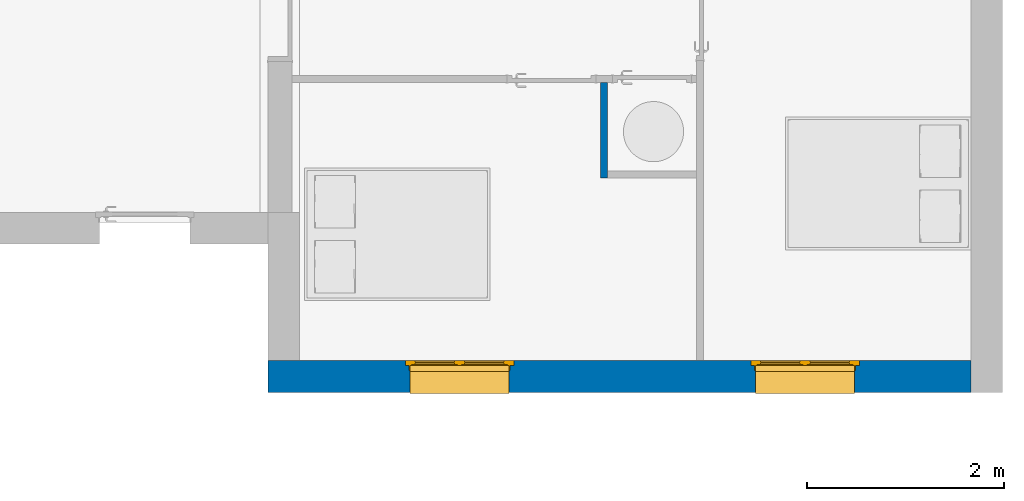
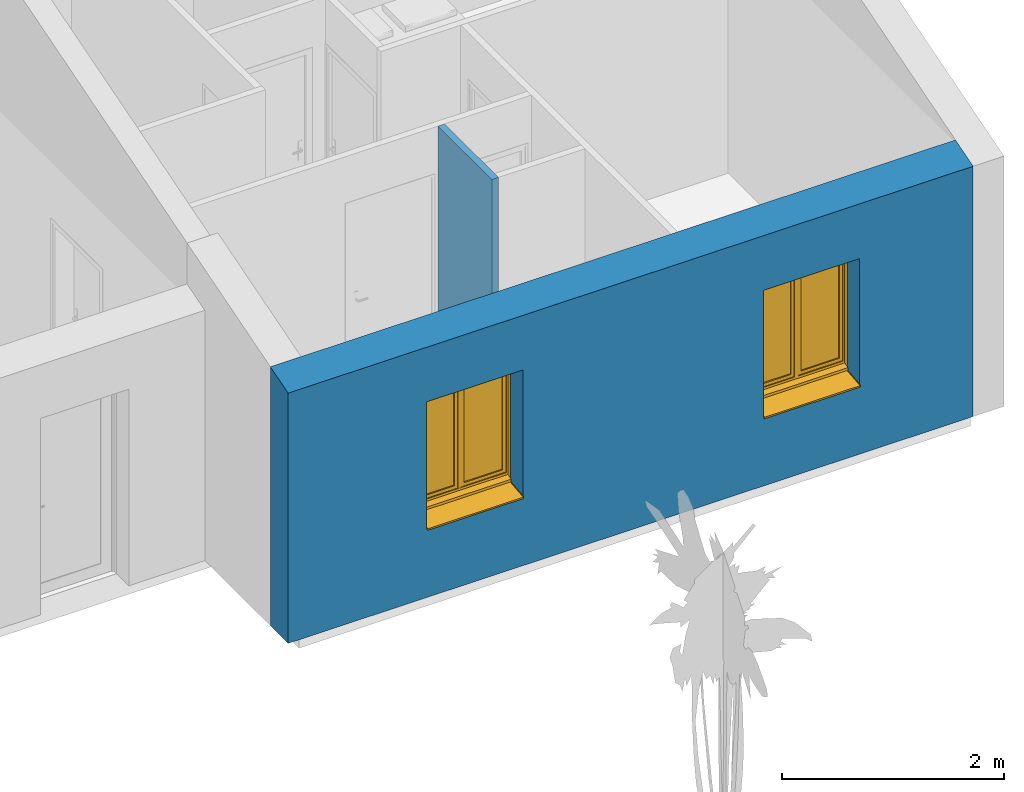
# One storey, part 2 of 18: 2 walls, 2 windows, 2 openings.
"""IFC2X3 building model written with IfcOpenShell, lengths in metres."""

from ifc_helpers import new_model, entity, si_unit, converted_unit, derived_unit, direction, frame, frame_2d, origin, place, context, subcontext, project, spatial, polyline, rectangle, extrude, clip, bounded_halfspace, faceted_brep, source, transform, mapped, material, material_list, layer, layer_set, layer_usage, type_object, type_shapes, element, fill, save


model = new_model("IFC2X3")

# Units and contexts
model_context = context("Model", 3, precision=1e-05, world=origin(), true_north=direction((6.12303176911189e-17, 1.0)))
body_context = subcontext(model_context, "Body", "Model", "MODEL_VIEW")
ifc_project = project(units=[si_unit("LENGTHUNIT", "METRE"), si_unit("AREAUNIT", "SQUARE_METRE"), si_unit("VOLUMEUNIT", "CUBIC_METRE"), converted_unit("PLANEANGLEUNIT", "DEGREE", entity("IfcRatioMeasure", 0.0174532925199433), si_unit("PLANEANGLEUNIT", "RADIAN"), dimensions=[0, 0, 0, 0, 0, 0, 0]), si_unit("MASSUNIT", "GRAM", prefix="KILO"), derived_unit("MASSDENSITYUNIT", [(si_unit("MASSUNIT", "GRAM", prefix="KILO"), 1), (si_unit("LENGTHUNIT", "METRE"), -3)]), derived_unit("MOMENTOFINERTIAUNIT", [(si_unit("LENGTHUNIT", "METRE"), 4)]), si_unit("TIMEUNIT", "SECOND"), si_unit("FREQUENCYUNIT", "HERTZ"), si_unit("THERMODYNAMICTEMPERATUREUNIT", "DEGREE_CELSIUS"), derived_unit("THERMALTRANSMITTANCEUNIT", [(si_unit("MASSUNIT", "GRAM", prefix="KILO"), 1), (si_unit("THERMODYNAMICTEMPERATUREUNIT", "KELVIN"), -1), (si_unit("TIMEUNIT", "SECOND"), -3)]), derived_unit("VOLUMETRICFLOWRATEUNIT", [(si_unit("LENGTHUNIT", "METRE"), 3), (si_unit("TIMEUNIT", "SECOND"), -1)]), si_unit("ELECTRICCURRENTUNIT", "AMPERE"), si_unit("ELECTRICVOLTAGEUNIT", "VOLT"), si_unit("POWERUNIT", "WATT"), si_unit("FORCEUNIT", "NEWTON", prefix="KILO"), si_unit("ILLUMINANCEUNIT", "LUX"), si_unit("LUMINOUSFLUXUNIT", "LUMEN"), si_unit("LUMINOUSINTENSITYUNIT", "CANDELA"), derived_unit("USERDEFINED", [(si_unit("MASSUNIT", "GRAM", prefix="KILO"), -1), (si_unit("LENGTHUNIT", "METRE"), -2), (si_unit("TIMEUNIT", "SECOND"), 3), (si_unit("LUMINOUSFLUXUNIT", "LUMEN"), 1)]), derived_unit("LINEARVELOCITYUNIT", [(si_unit("LENGTHUNIT", "METRE"), 1), (si_unit("TIMEUNIT", "SECOND"), -1)]), si_unit("PRESSUREUNIT", "PASCAL"), derived_unit("USERDEFINED", [(si_unit("LENGTHUNIT", "METRE"), -2), (si_unit("MASSUNIT", "GRAM", prefix="KILO"), 1), (si_unit("TIMEUNIT", "SECOND"), -2)]), derived_unit("LINEARFORCEUNIT", [(si_unit("MASSUNIT", "GRAM", prefix="KILO"), 1), (si_unit("LENGTHUNIT", "METRE"), 1), (si_unit("TIMEUNIT", "SECOND"), -2), (si_unit("LENGTHUNIT", "METRE"), -1)]), derived_unit("PLANARFORCEUNIT", [(si_unit("MASSUNIT", "GRAM", prefix="KILO"), 1), (si_unit("LENGTHUNIT", "METRE"), 1), (si_unit("TIMEUNIT", "SECOND"), -2), (si_unit("LENGTHUNIT", "METRE"), -2)])], contexts=[model_context])

# Site, building, storey
site_placement = place(None, origin())
site = spatial("IfcSite", under=ifc_project, at=site_placement, Name="Surface", CompositionType="ELEMENT")
building_placement = place(site_placement, origin())
building = spatial("IfcBuilding", under=site, at=building_placement, CompositionType="ELEMENT")
storey_placement = place(building_placement, origin())
storey = spatial("IfcBuildingStorey", under=building, at=storey_placement, Name="RDC", CompositionType="ELEMENT", Elevation=-1.94916083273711e-14)

# Wall, openings, windows
ifc_material_1 = material(Name="Maçonnerie - Enduit")
ifc_layer_1 = layer(ifc_material_1, 0.02)
ifc_material_2 = material(Name="Blocs béton manufacturés")
ifc_layer_2 = layer(ifc_material_2, 0.2)
ifc_material_3 = material(Name="Maçonnerie - Isolant")
ifc_layer_3 = layer(ifc_material_3, 0.1)
ifc_layer_set_1 = layer_set([ifc_layer_1, ifc_layer_2, ifc_layer_3], Name="Mur de base:Ext. Parpaing 20 + Isolant 10")
ifc_layer_usage_1 = layer_usage(ifc_layer_set_1, "AXIS2", "NEGATIVE", 0.16)
wall_type_1 = type_object("IfcWallType", Name="Mur de base:Ext. Parpaing 20 + Isolant 10", PredefinedType="STANDARD", material=ifc_layer_set_1)
wall_1_placement = place(storey_placement, frame((-4.22829269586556, -0.952620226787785, 0.0), z_axis=(0.0, 0.0, 1.0), x_axis=(-1.0, 0.0, 0.0)))
wall_1 = element("IfcWallStandardCase", 1, at=wall_1_placement, inside=storey, type_object=wall_type_1, material=ifc_layer_usage_1, Name="Mur de base:Ext. Parpaing 20 + Isolant 10", ObjectType="Mur de base:Ext. Parpaing 20 + Isolant 10", context=body_context, shape_type="Clipping", body=[
    clip(extrude(rectangle(XDim=7.12000000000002, YDim=0.32, at=frame_2d((3.56000000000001, 0.0), x_axis=(-1.0, 0.0))), origin(), (0.0, 0.0, 1.0), 2.84600000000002), bounded_halfspace(frame((0.0, -0.16, 2.84600000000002), z_axis=(0.0, 0.287347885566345, 0.957826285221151), x_axis=(-1.0, 0.0, 0.0)), False, frame((0.0, -0.16, 2.84600000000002)), polyline([(0.0, 0.0), (6.80000000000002, 0.0), (7.12000000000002, 0.0), (7.12000000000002, 0.32), (0.0, 0.32), (0.0, 0.0)]))),
])
opening_1_placement = place(wall_1_placement, frame((2.23, 0.499999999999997, 0.724039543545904), z_axis=(0.0, 0.0, 1.0), x_axis=(-1.0, 0.0, 0.0)))
opening_1 = element("IfcOpeningElement", 2, at=opening_1_placement, cuts=wall_1, Name="Mur de base:Ext. Parpaing 20 + Isolant 10", ObjectType="Opening", context=body_context, shape_type="Brep", body=[
    faceted_brep([(1.05, 0.580000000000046, 0.0759604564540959), (1.05, 0.559999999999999, 0.0759604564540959), (1.05, 0.559999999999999, 1.4259604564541), (1.05, 0.0, 1.4259604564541), (1.05, 0.0, 0.0), (1.05, 0.580000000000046, 0.0609604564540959), (0.0500000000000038, 1.0, 0.0759604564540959), (0.0500000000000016, 0.660000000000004, 0.0759604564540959), (0.0500000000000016, 0.660000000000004, 1.42596045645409), (0.0500000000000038, 1.0, 1.4259604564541), (1.05, 1.0, 0.0759604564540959), (1.05, 0.660000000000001, 0.0759604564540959), (1.1, 0.660000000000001, 0.0759604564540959), (1.1, 0.610000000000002, 0.0759604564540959), (1.06, 0.610000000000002, 0.0759604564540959), (1.06, 0.559999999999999, 0.0759604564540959), (0.0500000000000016, 0.580000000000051, 0.0759604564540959), (0.0500000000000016, 0.560000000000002, 0.0759604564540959), (0.0400000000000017, 0.560000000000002, 0.0759604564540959), (0.0400000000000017, 0.610000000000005, 0.0759604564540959), (0.0, 0.610000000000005, 0.0759604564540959), (0.0, 0.660000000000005, 0.0759604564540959), (1.05, 1.0, 1.4259604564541), (0.0500000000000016, 0.560000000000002, 1.4259604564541), (0.0500000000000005, 0.0, 1.4259604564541), (0.0500000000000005, 0.0, 0.0), (0.0500000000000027, 0.580000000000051, 0.0609604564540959), (1.1, 0.660000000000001, 1.47596045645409), (1.1, 0.610000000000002, 1.47596045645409), (0.0, 0.610000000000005, 1.47596045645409), (0.0400000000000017, 0.610000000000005, 1.4359604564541), (1.06, 0.610000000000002, 1.4359604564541), (1.06, 0.559999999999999, 1.4359604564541), (0.0400000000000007, 0.560000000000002, 1.4359604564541), (1.05, 0.660000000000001, 1.4259604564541), (0.0, 0.660000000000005, 1.47596045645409)], [[[0, 1, 2, 3, 4, 5]], [[6, 7, 8, 9]], [[10, 11, 12, 13, 14, 15, 1, 0, 16, 17, 18, 19, 20, 21, 7, 6]], [[10, 6, 9, 22]], [[3, 2, 23, 24]], [[3, 24, 25, 4]], [[4, 25, 26, 5]], [[5, 26, 16, 0]], [[12, 27, 28, 13]], [[13, 28, 29, 20, 19, 30, 31, 14]], [[14, 31, 32, 15]], [[15, 32, 33, 18, 17, 23, 2, 1]], [[11, 34, 8, 7, 21, 35, 27, 12]], [[27, 35, 29, 28]], [[30, 33, 32, 31]], [[29, 35, 21, 20]], [[19, 18, 33, 30]], [[9, 8, 34, 22]], [[24, 23, 17, 16, 26, 25]], [[22, 34, 11, 10]]]),
])
opening_2_placement = place(wall_1_placement, frame((5.73, 0.499999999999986, 0.724039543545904), z_axis=(0.0, 0.0, 1.0), x_axis=(-1.0, 0.0, 0.0)))
opening_2 = element("IfcOpeningElement", 3, at=opening_2_placement, cuts=wall_1, Name="Mur de base:Ext. Parpaing 20 + Isolant 10", ObjectType="Opening", context=body_context, shape_type="Brep", body=[
    faceted_brep([(1.05, 0.580000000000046, 0.0759604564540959), (1.05, 0.559999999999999, 0.0759604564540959), (1.05, 0.559999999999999, 1.4259604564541), (1.05, 0.0, 1.4259604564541), (1.05, 0.0, 0.0), (1.05, 0.580000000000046, 0.0609604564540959), (0.0500000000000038, 1.0, 0.0759604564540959), (0.0500000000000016, 0.660000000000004, 0.0759604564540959), (0.0500000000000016, 0.660000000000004, 1.42596045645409), (0.0500000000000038, 1.0, 1.4259604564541), (1.05, 1.0, 0.0759604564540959), (1.05, 0.660000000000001, 0.0759604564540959), (1.1, 0.660000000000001, 0.0759604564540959), (1.1, 0.610000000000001, 0.0759604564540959), (1.06, 0.610000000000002, 0.0759604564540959), (1.06, 0.559999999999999, 0.0759604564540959), (0.0500000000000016, 0.580000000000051, 0.0759604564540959), (0.0499999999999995, 0.560000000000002, 0.0759604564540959), (0.0399999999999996, 0.560000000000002, 0.0759604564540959), (0.0400000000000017, 0.610000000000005, 0.0759604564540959), (0.0, 0.610000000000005, 0.0759604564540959), (0.0, 0.660000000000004, 0.0759604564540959), (1.05, 1.0, 1.4259604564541), (0.0500000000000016, 0.560000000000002, 1.4259604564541), (0.0499999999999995, 0.0, 1.4259604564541), (0.0499999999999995, 0.0, 0.0), (0.0500000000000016, 0.580000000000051, 0.0609604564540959), (1.1, 0.660000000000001, 1.47596045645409), (1.1, 0.610000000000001, 1.47596045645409), (0.0, 0.610000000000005, 1.47596045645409), (0.0400000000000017, 0.610000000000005, 1.4359604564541), (1.06, 0.610000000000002, 1.4359604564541), (1.06, 0.559999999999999, 1.4359604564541), (0.0399999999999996, 0.560000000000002, 1.4359604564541), (1.05, 0.660000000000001, 1.4259604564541), (0.0, 0.660000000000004, 1.47596045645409)], [[[0, 1, 2, 3, 4, 5]], [[6, 7, 8, 9]], [[10, 11, 12, 13, 14, 15, 1, 0, 16, 17, 18, 19, 20, 21, 7, 6]], [[10, 6, 9, 22]], [[3, 2, 23, 24]], [[3, 24, 25, 4]], [[4, 25, 26, 5]], [[5, 26, 16, 0]], [[12, 27, 28, 13]], [[13, 28, 29, 20, 19, 30, 31, 14]], [[14, 31, 32, 15]], [[15, 32, 33, 18, 17, 23, 2, 1]], [[11, 34, 8, 7, 21, 35, 27, 12]], [[27, 35, 29, 28]], [[30, 33, 32, 31]], [[29, 35, 21, 20]], [[19, 18, 33, 30]], [[9, 8, 34, 22]], [[24, 23, 17, 16, 26, 25]], [[22, 34, 11, 10]]]),
])
ifc_material_4 = material(Name="Fenêtre - Poignée")
ifc_material_5 = material(Name="Fenêtre - Appui")
ifc_material_6 = material(Name="Fenêtre - Cadre")
ifc_material_7 = material(Name="Fenêtre - Vitrage")
ifc_material_list_1 = material_list([ifc_material_4, ifc_material_5, ifc_material_6, ifc_material_7])
ifc_material_list_2 = material_list([ifc_material_7, ifc_material_6, ifc_material_6, ifc_material_5, ifc_material_4])
window_style = type_object("IfcWindowStyle", Name="2 Vantaux - Droits:1m x 1.35m - Appui Alu", ConstructionType="NOTDEFINED", OperationType="DOUBLE_PANEL_VERTICAL", ParameterTakesPrecedence=False, Sizeable=False, material=ifc_material_list_2)
shared_shape = source(origin(), body_context, "Body", "Brep", [
    faceted_brep([(0.580646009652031, -0.66600000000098, 0.697994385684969), (0.582033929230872, -0.66600000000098, 0.696606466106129), (0.582033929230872, -0.66600000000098, 0.685292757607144), (0.580667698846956, -0.66600000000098, 0.683926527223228), (0.569332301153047, -0.66600000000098, 0.683926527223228), (0.567966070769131, -0.66600000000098, 0.685292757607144), (0.567966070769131, -0.66600000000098, 0.696606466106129), (0.569353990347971, -0.66600000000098, 0.697994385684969), (0.580646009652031, -0.678913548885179, 0.697994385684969), (0.582033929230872, -0.67833865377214, 0.696606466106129), (0.582033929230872, -0.69164600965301, 0.683299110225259), (0.582033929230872, -0.69164600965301, 0.595960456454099), (0.582033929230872, -0.680332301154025, 0.595960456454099), (0.582033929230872, -0.680332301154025, 0.678612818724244), (0.582033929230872, -0.673652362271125, 0.685292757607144), (0.580667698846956, -0.673086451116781, 0.683926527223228), (0.569332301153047, -0.673086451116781, 0.683926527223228), (0.567966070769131, -0.673652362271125, 0.685292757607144), (0.567966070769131, -0.680332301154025, 0.678612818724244), (0.567966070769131, -0.680332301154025, 0.595960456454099), (0.567966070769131, -0.69164600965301, 0.595960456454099), (0.567966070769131, -0.69164600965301, 0.683299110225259), (0.567966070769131, -0.67833865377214, 0.696606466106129), (0.569353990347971, -0.678913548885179, 0.697994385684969), (0.580646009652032, -0.69303392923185, 0.683874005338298), (0.580667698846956, -0.67896607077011, 0.6780469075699), (0.569332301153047, -0.67896607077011, 0.6780469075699), (0.569353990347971, -0.69303392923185, 0.683874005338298), (0.580646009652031, -0.69303392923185, 0.595960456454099), (0.569353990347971, -0.69303392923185, 0.595960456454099), (0.569332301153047, -0.678966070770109, 0.595960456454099), (0.580667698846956, -0.678966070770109, 0.595960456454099)], [[[0, 1, 2, 3, 4, 5, 6, 7]], [[1, 0, 8, 9]], [[2, 1, 9, 10, 11, 12, 13, 14]], [[3, 2, 14, 15]], [[4, 3, 15, 16]], [[5, 4, 16, 17]], [[6, 5, 17, 18, 19, 20, 21, 22]], [[7, 6, 22, 23]], [[0, 7, 23, 8]], [[9, 8, 24, 10]], [[15, 14, 13, 25]], [[16, 15, 25, 26]], [[17, 16, 26, 18]], [[23, 22, 21, 27]], [[8, 23, 27, 24]], [[28, 29, 20, 19, 30, 31, 12, 11]], [[10, 24, 28, 11]], [[25, 13, 12, 31]], [[26, 25, 31, 30]], [[18, 26, 30, 19]], [[27, 21, 20, 29]], [[24, 27, 29, 28]]]),
    faceted_brep([(0.582000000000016, -0.666000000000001, 0.715960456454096), (0.568, -0.666000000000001, 0.715960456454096), (0.563, -0.666000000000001, 0.710960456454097), (0.563, -0.666000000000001, 0.640960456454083), (0.567999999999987, -0.666000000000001, 0.635960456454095), (0.582000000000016, -0.666000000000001, 0.635960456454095), (0.587000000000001, -0.666000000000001, 0.640960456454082), (0.587000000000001, -0.666000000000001, 0.710960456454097), (0.582000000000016, -0.660000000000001, 0.715960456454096), (0.587000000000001, -0.660000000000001, 0.710960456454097), (0.587000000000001, -0.660000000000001, 0.640960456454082), (0.582000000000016, -0.660000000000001, 0.635960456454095), (0.567999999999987, -0.660000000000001, 0.635960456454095), (0.563, -0.660000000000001, 0.640960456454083), (0.563, -0.660000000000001, 0.710960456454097), (0.568, -0.660000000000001, 0.715960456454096)], [[[0, 1, 2, 3, 4, 5, 6, 7]], [[8, 9, 10, 11, 12, 13, 14, 15]], [[1, 0, 8, 15]], [[2, 1, 15, 14]], [[3, 2, 14, 13]], [[4, 3, 13, 12]], [[5, 4, 12, 11]], [[6, 5, 11, 10]], [[7, 6, 10, 9]], [[0, 7, 9, 8]]]),
    faceted_brep([(1.05, -0.324999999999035, 0.0394140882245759), (1.05, -0.574999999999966, 0.0656901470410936), (1.05, -0.574999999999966, 0.075960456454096), (1.05, -0.579999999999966, 0.075960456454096), (1.05, -0.579999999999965, 0.0609604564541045), (1.05, -0.329999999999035, 0.0346843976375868), (1.05, -0.329999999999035, 0.0243838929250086), (1.05, -0.324999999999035, 0.0238583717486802), (0.0499999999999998, -0.324999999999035, 0.0394140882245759), (0.0499999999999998, -0.324999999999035, 0.0238583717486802), (0.0499999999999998, -0.329999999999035, 0.0243838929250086), (0.0499999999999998, -0.329999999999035, 0.0346843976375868), (0.0499999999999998, -0.579999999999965, 0.0609604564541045), (0.0499999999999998, -0.579999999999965, 0.075960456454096), (0.0499999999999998, -0.574999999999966, 0.075960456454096), (0.0499999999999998, -0.574999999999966, 0.0656901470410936)], [[[0, 1, 2, 3, 4, 5, 6, 7]], [[8, 9, 10, 11, 12, 13, 14, 15]], [[1, 0, 8, 15]], [[2, 1, 15, 14]], [[3, 2, 14, 13]], [[4, 3, 13, 12]], [[5, 4, 12, 11]], [[6, 5, 11, 10]], [[7, 6, 10, 9]], [[0, 7, 9, 8]]]),
    faceted_brep([(0.0500000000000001, -0.324999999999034, 0.0408400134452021), (0.0500000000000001, -0.324999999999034, 0.0394140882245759), (0.0499999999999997, -0.574999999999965, 0.0656901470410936), (0.0499999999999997, -0.574999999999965, 0.0707176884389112), (0.0500000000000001, -0.328581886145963, 0.0448181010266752), (0.0500000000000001, -0.326027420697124, 0.0435165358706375), (0.0549999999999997, -0.574999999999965, 0.0707176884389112), (0.0549999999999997, -0.574999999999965, 0.0656901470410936), (0.0550000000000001, -0.324999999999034, 0.0394140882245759), (0.0550000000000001, -0.324999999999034, 0.0408400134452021), (0.0550000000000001, -0.326027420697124, 0.0435165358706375), (0.0550000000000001, -0.328581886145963, 0.0448181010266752)], [[[0, 1, 2, 3, 4, 5]], [[6, 7, 8, 9, 10, 11]], [[2, 1, 8, 7]], [[3, 2, 7, 6]], [[4, 3, 6, 11]], [[4, 11, 10, 5]], [[10, 9, 0, 5]], [[1, 0, 9, 8]]]),
    faceted_brep([(1.045, -0.324999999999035, 0.0408400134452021), (1.045, -0.324999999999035, 0.0394140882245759), (1.045, -0.574999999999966, 0.0656901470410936), (1.045, -0.574999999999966, 0.0707176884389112), (1.045, -0.328581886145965, 0.0448181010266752), (1.045, -0.326027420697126, 0.0435165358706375), (1.05, -0.574999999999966, 0.0707176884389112), (1.05, -0.574999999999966, 0.0656901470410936), (1.05, -0.324999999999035, 0.0394140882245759), (1.05, -0.324999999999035, 0.0408400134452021), (1.05, -0.326027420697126, 0.0435165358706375), (1.05, -0.328581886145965, 0.0448181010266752)], [[[0, 1, 2, 3, 4, 5]], [[6, 7, 8, 9, 10, 11]], [[2, 1, 8, 7]], [[3, 2, 7, 6]], [[4, 3, 6, 11]], [[4, 11, 10, 5]], [[10, 9, 0, 5]], [[1, 0, 9, 8]]]),
    faceted_brep([(0.549999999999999, -0.619999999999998, 1.4259604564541), (0.549999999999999, -0.65999999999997, 1.4259604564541), (0.549999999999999, -0.65999999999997, 0.125960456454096), (0.549999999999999, -0.619999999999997, 0.125960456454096), (0.0499999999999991, -0.659999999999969, 0.125960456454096), (0.0499999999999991, -0.619999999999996, 0.125960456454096), (0.0499999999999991, -0.659999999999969, 1.4259604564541), (0.0999999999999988, -0.659999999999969, 0.175960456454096), (0.0999999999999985, -0.659999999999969, 1.3759604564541), (0.5, -0.65999999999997, 1.3759604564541), (0.5, -0.65999999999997, 0.175960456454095), (0.049999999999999, -0.619999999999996, 1.4259604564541), (0.5, -0.619999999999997, 0.175960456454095), (0.5, -0.619999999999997, 1.3759604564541), (0.0999999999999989, -0.619999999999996, 1.3759604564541), (0.0999999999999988, -0.619999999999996, 0.175960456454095)], [[[0, 1, 2, 3]], [[3, 2, 4, 5]], [[2, 1, 6, 4], [7, 8, 9, 10]], [[5, 4, 6, 11]], [[5, 11, 0, 3], [12, 13, 14, 15]], [[9, 13, 12, 10]], [[10, 12, 15, 7]], [[7, 15, 14, 8]], [[11, 6, 1, 0]], [[8, 14, 13, 9]]]),
    faceted_brep([(0.6, -0.634000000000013, 0.175960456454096), (0.6, -0.634000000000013, 1.37596045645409), (1.0, -0.634000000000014, 1.37596045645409), (1.0, -0.634000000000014, 0.175960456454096), (0.6, -0.646000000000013, 0.175960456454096), (0.599999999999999, -0.646000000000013, 1.37596045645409), (1.0, -0.646000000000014, 1.37596045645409), (1.0, -0.646000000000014, 0.175960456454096)], [[[0, 1, 2, 3]], [[1, 0, 4, 5]], [[3, 2, 6, 7]], [[0, 3, 7, 4]], [[2, 1, 5, 6]], [[4, 7, 6, 5]]]),
    faceted_brep([(0.5, -0.634000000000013, 0.175960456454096), (0.5, -0.634000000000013, 1.3759604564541), (0.5, -0.646000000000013, 1.3759604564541), (0.5, -0.646000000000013, 0.175960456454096), (0.0999999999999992, -0.634000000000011, 0.175960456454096), (0.0999999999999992, -0.646000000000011, 0.175960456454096), (0.0999999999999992, -0.634000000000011, 1.3759604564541), (0.0999999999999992, -0.646000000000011, 1.3759604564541)], [[[0, 1, 2, 3]], [[4, 0, 3, 5]], [[6, 4, 5, 7]], [[7, 5, 3, 2]], [[1, 6, 7, 2]], [[6, 1, 0, 4]]]),
    faceted_brep([(0.6, -0.620000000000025, 1.37596045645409), (0.599999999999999, -0.660000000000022, 1.3759604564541), (0.6, -0.660000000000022, 0.175960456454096), (0.6, -0.620000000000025, 0.175960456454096), (1.0, -0.660000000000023, 0.175960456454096), (1.0, -0.620000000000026, 0.175960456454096), (1.0, -0.660000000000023, 1.37596045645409), (1.05, -0.660000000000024, 0.125960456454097), (1.05, -0.660000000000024, 1.42596045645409), (0.55, -0.660000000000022, 1.42596045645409), (0.55, -0.660000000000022, 0.125960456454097), (1.0, -0.620000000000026, 1.37596045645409), (0.55, -0.620000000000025, 0.125960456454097), (0.55, -0.620000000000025, 1.42596045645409), (1.05, -0.620000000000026, 1.42596045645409), (1.05, -0.620000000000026, 0.125960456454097)], [[[0, 1, 2, 3]], [[3, 2, 4, 5]], [[2, 1, 6, 4], [7, 8, 9, 10]], [[5, 4, 6, 11]], [[5, 11, 0, 3], [12, 13, 14, 15]], [[9, 13, 12, 10]], [[10, 12, 15, 7]], [[7, 15, 14, 8]], [[11, 6, 1, 0]], [[8, 14, 13, 9]]], outer=[[True], [True], [False, True], [True], [False, True], [True], [True], [True], [True], [True]]),
    faceted_brep([(0.0, -0.660000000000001, 0.075960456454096), (0.0, -0.610000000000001, 0.075960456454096), (0.0499999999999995, -0.610000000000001, 0.075960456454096), (0.0499999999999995, -0.560000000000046, 0.075960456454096), (1.05, -0.560000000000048, 0.0759604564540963), (1.05, -0.610000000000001, 0.075960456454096), (1.1, -0.610000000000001, 0.075960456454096), (1.1, -0.660000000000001, 0.075960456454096), (0.0, -0.660000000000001, 1.4759604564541), (0.0, -0.610000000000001, 1.4759604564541), (1.1, -0.610000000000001, 1.4759604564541), (1.05, -0.610000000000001, 0.115336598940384), (0.0499999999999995, -0.610000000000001, 0.1153365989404), (0.0649999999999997, -0.610000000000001, 1.4109604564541), (0.0649999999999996, -0.610000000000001, 0.140960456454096), (1.035, -0.610000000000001, 0.140960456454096), (1.035, -0.610000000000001, 1.4109604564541), (0.0499999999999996, -0.550000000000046, 0.0992596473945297), (0.0499999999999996, -0.550000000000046, 0.0709604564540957), (0.0499999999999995, -0.560000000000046, 0.0709604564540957), (1.05, -0.560000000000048, 0.0709604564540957), (1.05, -0.550000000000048, 0.0709604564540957), (1.05, -0.550000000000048, 0.0992596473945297), (1.1, -0.660000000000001, 1.4759604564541), (1.05, -0.660000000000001, 1.4259604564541), (1.05, -0.660000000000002, 0.125960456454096), (0.0499999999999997, -0.660000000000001, 0.125960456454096), (0.0499999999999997, -0.660000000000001, 1.4259604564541), (0.0649999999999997, -0.620000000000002, 1.4109604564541), (0.0649999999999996, -0.620000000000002, 0.140960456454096), (1.035, -0.620000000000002, 0.140960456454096), (1.035, -0.620000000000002, 1.4109604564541), (1.05, -0.620000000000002, 1.4259604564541), (0.0499999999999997, -0.620000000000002, 1.4259604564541), (0.0499999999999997, -0.620000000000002, 0.125960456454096), (1.05, -0.620000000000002, 0.125960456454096)], [[[0, 1, 2, 3, 4, 5, 6, 7]], [[1, 0, 8, 9]], [[1, 9, 10, 6, 5, 11, 12, 2], [13, 14, 15, 16]], [[12, 17, 18, 19, 3, 2]], [[3, 19, 20, 4]], [[4, 20, 21, 22, 11, 5]], [[6, 10, 23, 7]], [[0, 7, 23, 8], [24, 25, 26, 27]], [[13, 28, 29, 14]], [[29, 30, 15, 14]], [[31, 16, 15, 30]], [[17, 12, 11, 22]], [[32, 33, 34, 35], [28, 31, 30, 29]], [[34, 33, 27, 26]], [[26, 25, 35, 34]], [[24, 32, 35, 25]], [[18, 17, 22, 21]], [[19, 18, 21, 20]], [[13, 16, 31, 28]], [[33, 32, 24, 27]], [[10, 9, 8, 23]]]),
    faceted_brep([(0.0499999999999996, -0.559999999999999, 0.075960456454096), (0.0499999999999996, -0.610000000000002, 0.075960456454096), (0.0399999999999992, -0.610000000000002, 0.075960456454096), (0.0399999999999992, -0.559999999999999, 0.075960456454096), (0.0499999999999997, -0.559999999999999, 1.4259604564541), (0.0499999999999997, -0.610000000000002, 1.4259604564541), (1.05, -0.610000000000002, 1.4259604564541), (1.05, -0.610000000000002, 0.075960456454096), (1.06, -0.610000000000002, 0.075960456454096), (1.06, -0.610000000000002, 1.4359604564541), (0.0399999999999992, -0.610000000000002, 1.4359604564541), (0.0399999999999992, -0.559999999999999, 1.4359604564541), (1.06, -0.559999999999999, 1.4359604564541), (1.06, -0.559999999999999, 0.075960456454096), (1.05, -0.559999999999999, 0.075960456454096), (1.05, -0.559999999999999, 1.4259604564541)], [[[0, 1, 2, 3]], [[1, 0, 4, 5]], [[2, 1, 5, 6, 7, 8, 9, 10]], [[3, 2, 10, 11]], [[0, 3, 11, 12, 13, 14, 15, 4]], [[6, 15, 14, 7]], [[14, 13, 8, 7]], [[12, 9, 8, 13]], [[5, 4, 15, 6]], [[11, 10, 9, 12]]]),
    faceted_brep([(0.569999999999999, -0.612000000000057, 1.41096045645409), (0.529999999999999, -0.612000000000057, 1.41096045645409), (0.529999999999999, -0.620000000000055, 1.41096045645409), (0.569999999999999, -0.620000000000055, 1.41096045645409), (0.569999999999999, -0.612000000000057, 0.140960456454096), (0.569999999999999, -0.620000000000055, 0.140960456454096), (0.529999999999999, -0.620000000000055, 0.140960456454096), (0.529999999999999, -0.612000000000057, 0.140960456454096)], [[[0, 1, 2, 3]], [[4, 5, 6, 7]], [[1, 0, 4, 7]], [[2, 1, 7, 6]], [[3, 2, 6, 5]], [[0, 3, 5, 4]]]),
])
type_shapes(window_style, [shared_shape])
window_1_placement = place(opening_1_placement, frame((1.1, 0.0, 0.0), z_axis=(0.0, 0.0, 1.0), x_axis=(-1.0, 0.0, 0.0)))
window_1 = element("IfcWindow", 4, at=window_1_placement, inside=storey, type_object=window_style, material=ifc_material_list_1, Name="2 Vantaux - Droits:1m x 1.35m - Appui Alu", ObjectType="2 Vantaux - Droits:1m x 1.35m - Appui Alu", OverallHeight=1.48, OverallWidth=1.1, context=body_context, shape_type="MappedRepresentation", body=[
    mapped(shared_shape, transform((0.0, 0.0, 0.0), scale=1.0)),
])
fill(opening_1, window_1)
ifc_material_list_3 = material_list([ifc_material_4, ifc_material_5, ifc_material_6, ifc_material_7])
window_2_placement = place(opening_2_placement, frame((1.1, 0.0, 0.0), z_axis=(0.0, 0.0, 1.0), x_axis=(-1.0, 0.0, 0.0)))
window_2 = element("IfcWindow", 5, at=window_2_placement, inside=storey, type_object=window_style, material=ifc_material_list_3, Name="2 Vantaux - Droits:1m x 1.35m - Appui Alu", ObjectType="2 Vantaux - Droits:1m x 1.35m - Appui Alu", OverallHeight=1.48, OverallWidth=1.1, context=body_context, shape_type="MappedRepresentation", body=[
    mapped(shared_shape, transform((0.0, 0.0, 0.0), scale=1.0)),
])
fill(opening_2, window_2)

# Wall
ifc_material_8 = material(Name="Mur par défaut")
ifc_layer_4 = layer(ifc_material_8, 0.07)
ifc_layer_set_2 = layer_set([ifc_layer_4], Name="Mur de base:Int. Plâtre 70 mm")
ifc_layer_usage_2 = layer_usage(ifc_layer_set_2, "AXIS2", "NEGATIVE", 0.035)
wall_type_2 = type_object("IfcWallType", Name="Mur de base:Int. Plâtre 70 mm", PredefinedType="STANDARD", material=ifc_layer_set_2)
wall_2_placement = place(storey_placement, frame((-7.94329269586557, 2.02737977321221, 0.0), z_axis=(0.0, 0.0, 1.0), x_axis=(0.0, -1.0, 0.0)))
element("IfcWallStandardCase", 6, at=wall_2_placement, inside=storey, type_object=wall_type_2, material=ifc_layer_usage_2, Name="Mur de base:Int. Plâtre 70 mm", ObjectType="Mur de base:Int. Plâtre 70 mm", context=body_context, shape_type="SweptSolid", body=[
    extrude(rectangle(XDim=0.97, YDim=0.0699999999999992, at=frame_2d((0.485, 1.17961196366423e-16), x_axis=(-1.0, 0.0))), origin(), (0.0, 0.0, 1.0), 2.6),
])

save(model, "model.ifc")
